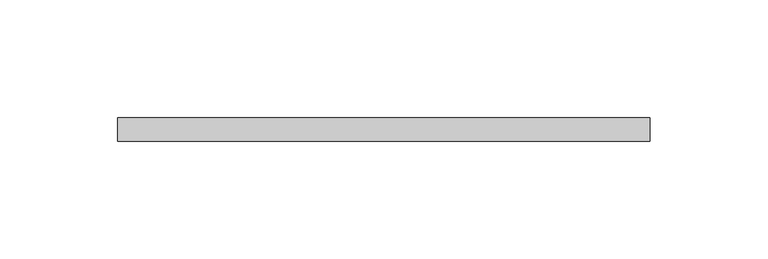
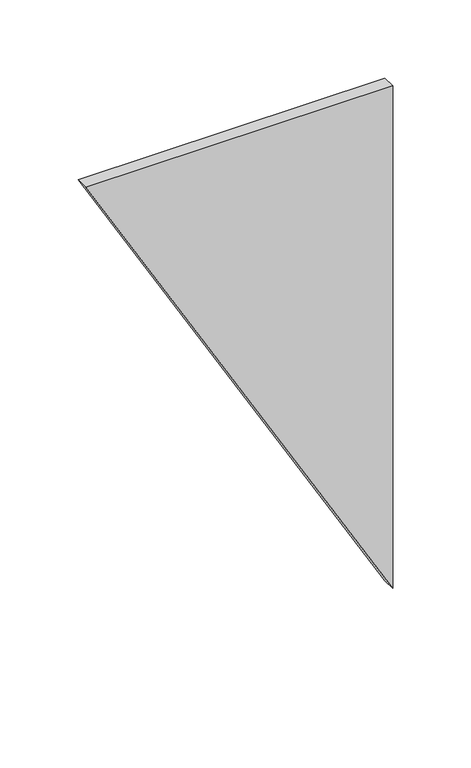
"""IFC4 building model written with IfcOpenShell, lengths in millimetres: plate geometry, 系統嵌板 : 玻璃 1.0cm."""

from ifc_helpers import new_model, si_unit, frame, origin, place, context, project, spatial, polyline, outline, extrude, source, transform, mapped, element, save


def plate_d2dca126(model_context):
    return source(origin(), model_context, "Body", "SweptSolid", [
        extrude(outline(polyline([(392.3048454, -113.2486541), (0.0, 113.2486541), (392.3048454, 113.2486541), (392.3048454, -113.2486541)])), frame((0.0, -5.0, 0.0), z_axis=(0.0, 1.0, 0.0), x_axis=(0.0, 0.0, 1.0)), (0.0, 0.0, 1.0), 10.0),
    ])


if __name__ == "__main__":
    model = new_model("IFC4")
    model_context = context("Model", 3, world=origin())
    ifc_project = project(units=[si_unit("LENGTHUNIT", "METRE", prefix="MILLI")], contexts=[model_context])
    site = spatial("IfcSite", under=ifc_project)
    building = spatial("IfcBuilding", under=site)
    placement = place(None, origin())
    plate_shape = plate_d2dca126(model_context)
    element("IfcPlate", 1, ObjectType="系統嵌板 : 玻璃 1.0cm", at=placement, inside=building, context=model_context, shape_type="MappedRepresentation", body=[
        mapped(plate_shape, transform((0.0, 0.0, 0.0), x_axis=(1.0, 0.0, 0.0), y_axis=(0.0, 1.0, 0.0), z_axis=(0.0, 0.0, 1.0))),
    ])
    save(model, "model.ifc")
